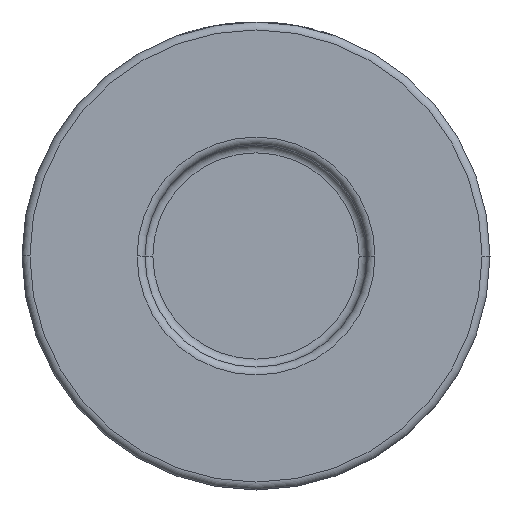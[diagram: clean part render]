
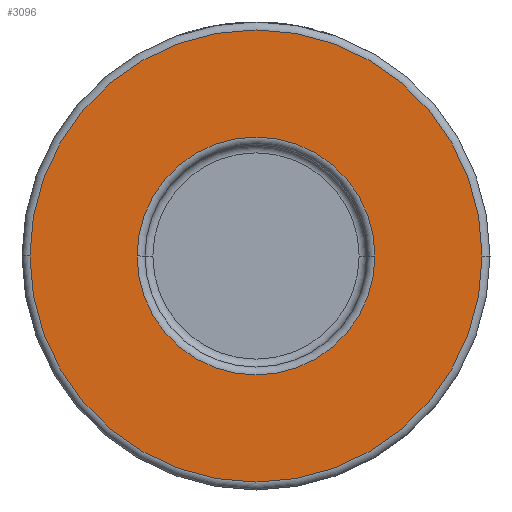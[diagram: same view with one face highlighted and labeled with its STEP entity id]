
A CAD part, front view. The second image highlights one B-rep face of the part: STEP entity #3096.
In plain terms, the highlighted planar face has unit normal (0, -1, 0).
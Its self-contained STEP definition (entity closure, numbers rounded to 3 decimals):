
#41 = EDGE_LOOP ( 'NONE', ( #3748, #1705 ) ) ;
#97 = VERTEX_POINT ( 'NONE', #1691 ) ;
#193 = DIRECTION ( 'NONE',  ( 1., 0., 0. ) ) ;
#397 = DIRECTION ( 'NONE',  ( 0., -1., 0. ) ) ;
#420 = CIRCLE ( 'NONE', #2609, 28.5 ) ;
#444 = EDGE_CURVE ( 'NONE', #2320, #97, #1994, .T. ) ;
#635 = EDGE_CURVE ( 'NONE', #1226, #2541, #1701, .T. ) ;
#927 = DIRECTION ( 'NONE',  ( 1., 0., 0. ) ) ;
#948 = CARTESIAN_POINT ( 'NONE',  ( 0., -19., 0. ) ) ;
#1226 = VERTEX_POINT ( 'NONE', #4077 ) ;
#1435 = AXIS2_PLACEMENT_3D ( 'NONE', #3500, #3867, #2499 ) ;
#1528 = PLANE ( 'NONE',  #2605 ) ;
#1556 = DIRECTION ( 'NONE',  ( 0., -1., 0. ) ) ;
#1691 = CARTESIAN_POINT ( 'NONE',  ( -28.5, -19., 0. ) ) ;
#1701 = CIRCLE ( 'NONE', #4448, 15. ) ;
#1705 = ORIENTED_EDGE ( 'NONE', *, *, #635, .T. ) ;
#1765 = CARTESIAN_POINT ( 'NONE',  ( 0., -19., 0. ) ) ;
#1994 = CIRCLE ( 'NONE', #2648, 28.5 ) ;
#2103 = ORIENTED_EDGE ( 'NONE', *, *, #3214, .T. ) ;
#2320 = VERTEX_POINT ( 'NONE', #2356 ) ;
#2326 = ORIENTED_EDGE ( 'NONE', *, *, #444, .T. ) ;
#2356 = CARTESIAN_POINT ( 'NONE',  ( 28.5, -19., 0. ) ) ;
#2499 = DIRECTION ( 'NONE',  ( 1., 0., 0. ) ) ;
#2541 = VERTEX_POINT ( 'NONE', #3547 ) ;
#2547 = FACE_OUTER_BOUND ( 'NONE', #4424, .T. ) ;
#2605 = AXIS2_PLACEMENT_3D ( 'NONE', #2889, #3274, #193 ) ;
#2609 = AXIS2_PLACEMENT_3D ( 'NONE', #948, #1556, #4055 ) ;
#2648 = AXIS2_PLACEMENT_3D ( 'NONE', #1765, #397, #4182 ) ;
#2658 = DIRECTION ( 'NONE',  ( 0., 1., 0. ) ) ;
#2889 = CARTESIAN_POINT ( 'NONE',  ( 29.5, -19., 0. ) ) ;
#3096 = ADVANCED_FACE ( 'NONE', ( #3952, #2547 ), #1528, .T. ) ;
#3214 = EDGE_CURVE ( 'NONE', #97, #2320, #420, .T. ) ;
#3274 = DIRECTION ( 'NONE',  ( 0., -1., 0. ) ) ;
#3400 = CIRCLE ( 'NONE', #1435, 15. ) ;
#3500 = CARTESIAN_POINT ( 'NONE',  ( 0., -19., 0. ) ) ;
#3547 = CARTESIAN_POINT ( 'NONE',  ( 15., -19., 0. ) ) ;
#3748 = ORIENTED_EDGE ( 'NONE', *, *, #4464, .T. ) ;
#3867 = DIRECTION ( 'NONE',  ( 0., 1., 0. ) ) ;
#3952 = FACE_BOUND ( 'NONE', #41, .T. ) ;
#4055 = DIRECTION ( 'NONE',  ( 1., 0., 0. ) ) ;
#4077 = CARTESIAN_POINT ( 'NONE',  ( -15., -19., 0. ) ) ;
#4182 = DIRECTION ( 'NONE',  ( 1., 0., 0. ) ) ;
#4374 = CARTESIAN_POINT ( 'NONE',  ( 0., -19., 0. ) ) ;
#4424 = EDGE_LOOP ( 'NONE', ( #2326, #2103 ) ) ;
#4448 = AXIS2_PLACEMENT_3D ( 'NONE', #4374, #2658, #927 ) ;
#4464 = EDGE_CURVE ( 'NONE', #2541, #1226, #3400, .T. ) ;
